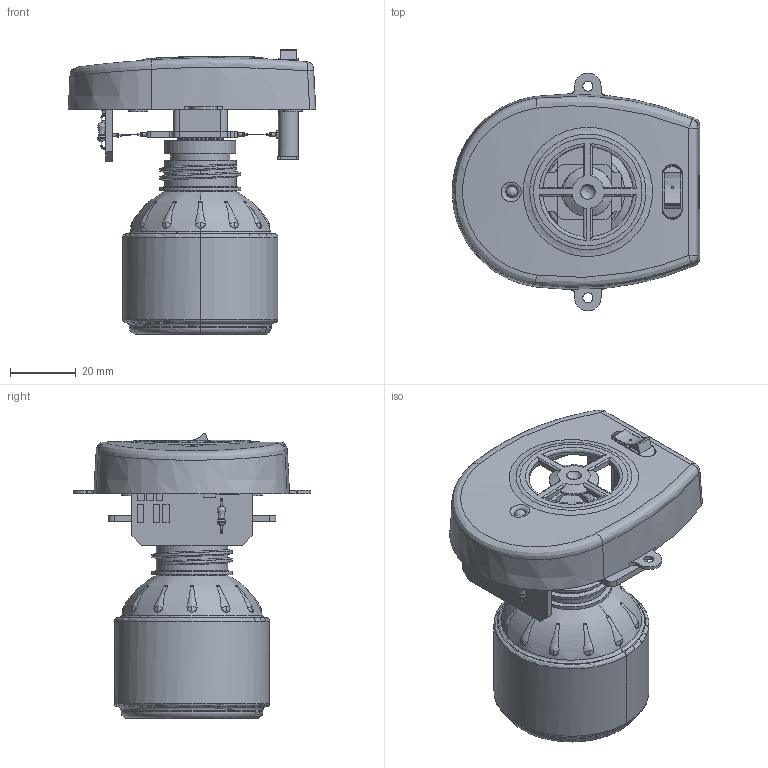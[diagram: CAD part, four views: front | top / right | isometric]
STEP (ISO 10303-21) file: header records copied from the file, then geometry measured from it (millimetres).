
FILE_DESCRIPTION(/* description */ (''),/* implementation_level */ '2;1');
FILE_NAME(/* name */ '样题4.stp',/* time_stamp */ '2023-04-15T14:57:40+08:00',/* author */ (''),/* organization */ (''),/* preprocessor_version */ 'ST-DEVELOPER v16.7',/* originating_system */ 'SIEMENS PLM Software NX 12.0',/* authorisation */ '');
FILE_SCHEMA (('AUTOMOTIVE_DESIGN { 1 0 10303 214 3 1 1 1 }'));
Length unit declared in the file: millimetre
Products named in the file (1): 样题4
Bounding box: 75.05 x 72.15 x 86.32 mm (x, y, z)
Volume: 35693.7 mm3; surface area: 46256.7 mm2
Topology: 20 solids, 20 shells, 1579 faces, 4117 edges, 2732 vertices
Faces by surface type: plane 879, cylinder 316, extrusion 185, bspline 103, torus 43, cone 28, sphere 23, revolution 2
Full cylindrical faces by diameter (mm): 0.2 x6, 0.35 x8, 0.4 x2, 0.6 x7, 1.1 x7, 1.2 x7, 1.5 x1, 2 x2, 3 x6, 3.4 x2, 3.6 x1, 6 x4, 7 x1, 7.087 x1, 9.2 x1, 10 x1, 11 x2, 13.5 x1, 13.8 x2, 15.5 x2, 18 x1, 18.7 x1, 19.2 x1, 19.9 x1, 21.5 x1, 21.7 x2, 21.726 x2, 24.5 x1, 41.4 x1, 45.4 x1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
Entity records: 75874 total; most frequent: CARTESIAN_POINT 37404, ORIENTED_EDGE 7828, DIRECTION 5848, EDGE_CURVE 3914, VERTEX_POINT 2667, AXIS2_PLACEMENT_3D 1962, EDGE_LOOP 1923, VECTOR 1922
